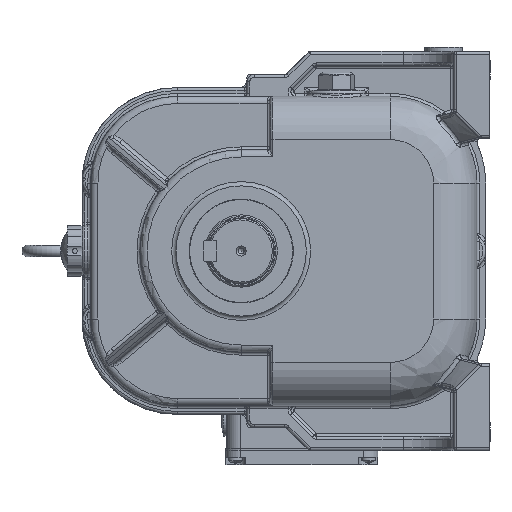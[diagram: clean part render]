
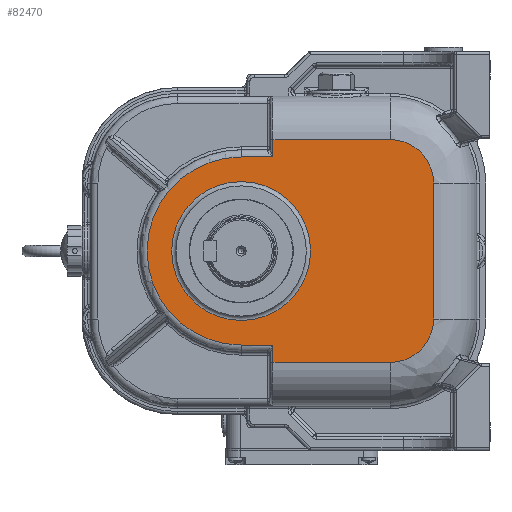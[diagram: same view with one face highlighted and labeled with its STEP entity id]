
A CAD part, left-side view. The second image highlights one B-rep face of the part: STEP entity #82470.
In plain terms, the highlighted planar face has unit normal (-1, 0, 0).
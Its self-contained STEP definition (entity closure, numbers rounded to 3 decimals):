
#4120=PLANE('',#88320);
#5724=FACE_BOUND('',#16428,.T.);
#7016=CIRCLE('',#87944,30.);
#7030=CIRCLE('',#87965,30.);
#7234=CIRCLE('',#88321,65.);
#7235=CIRCLE('',#88322,48.);
#11236=FACE_OUTER_BOUND('',#16427,.T.);
#16427=EDGE_LOOP('',(#60895,#60896,#60897,#60898,#60899,#60900,#60901,#60902,
#60903,#60904));
#16428=EDGE_LOOP('',(#60905));
#22189=LINE('',#128247,#28126);
#22253=LINE('',#129726,#28190);
#22254=LINE('',#129731,#28191);
#22255=LINE('',#129734,#28192);
#22256=LINE('',#129736,#28193);
#22257=LINE('',#129737,#28194);
#22258=LINE('',#129738,#28195);
#28126=VECTOR('',#100704,10.);
#28190=VECTOR('',#101106,10.);
#28191=VECTOR('',#101113,10.);
#28192=VECTOR('',#101116,10.);
#28193=VECTOR('',#101117,10.);
#28194=VECTOR('',#101118,10.);
#28195=VECTOR('',#101119,10.);
#35722=VERTEX_POINT('',#127078);
#35723=VERTEX_POINT('',#127080);
#35736=VERTEX_POINT('',#127322);
#35737=VERTEX_POINT('',#127324);
#35846=VERTEX_POINT('',#128245);
#35889=VERTEX_POINT('',#128632);
#35941=VERTEX_POINT('',#129311);
#35973=VERTEX_POINT('',#129730);
#35974=VERTEX_POINT('',#129732);
#35975=VERTEX_POINT('',#129735);
#35976=VERTEX_POINT('',#129739);
#44634=EDGE_CURVE('',#35722,#35723,#7016,.T.);
#44662=EDGE_CURVE('',#35736,#35737,#7030,.T.);
#44870=EDGE_CURVE('',#35846,#35722,#22189,.T.);
#45093=EDGE_CURVE('',#35941,#35846,#22253,.T.);
#45095=EDGE_CURVE('',#35941,#35973,#22254,.T.);
#45096=EDGE_CURVE('',#35974,#35973,#7234,.T.);
#45097=EDGE_CURVE('',#35974,#35889,#22255,.T.);
#45098=EDGE_CURVE('',#35975,#35889,#22256,.T.);
#45099=EDGE_CURVE('',#35737,#35975,#22257,.T.);
#45100=EDGE_CURVE('',#35723,#35736,#22258,.T.);
#45101=EDGE_CURVE('',#35976,#35976,#7235,.T.);
#60895=ORIENTED_EDGE('',*,*,#45093,.F.);
#60896=ORIENTED_EDGE('',*,*,#45095,.T.);
#60897=ORIENTED_EDGE('',*,*,#45096,.F.);
#60898=ORIENTED_EDGE('',*,*,#45097,.T.);
#60899=ORIENTED_EDGE('',*,*,#45098,.F.);
#60900=ORIENTED_EDGE('',*,*,#45099,.F.);
#60901=ORIENTED_EDGE('',*,*,#44662,.F.);
#60902=ORIENTED_EDGE('',*,*,#45100,.F.);
#60903=ORIENTED_EDGE('',*,*,#44634,.F.);
#60904=ORIENTED_EDGE('',*,*,#44870,.F.);
#60905=ORIENTED_EDGE('',*,*,#45101,.F.);
#82470=ADVANCED_FACE('',(#11236,#5724),#4120,.F.);
#87944=AXIS2_PLACEMENT_3D('',#127081,#100212,#100213);
#87965=AXIS2_PLACEMENT_3D('',#127325,#100259,#100260);
#88320=AXIS2_PLACEMENT_3D('',#129729,#101111,#101112);
#88321=AXIS2_PLACEMENT_3D('',#129733,#101114,#101115);
#88322=AXIS2_PLACEMENT_3D('',#129740,#101120,#101121);
#100212=DIRECTION('center_axis',(1.,0.,0.));
#100213=DIRECTION('ref_axis',(0.,-0.707,0.707));
#100259=DIRECTION('center_axis',(1.,0.,0.));
#100260=DIRECTION('ref_axis',(0.,-0.707,-0.707));
#100704=DIRECTION('',(0.,-1.,0.));
#101106=DIRECTION('',(0.,0.,1.));
#101111=DIRECTION('center_axis',(1.,0.,0.));
#101112=DIRECTION('ref_axis',(0.,0.,-1.));
#101113=DIRECTION('',(0.,1.,0.));
#101114=DIRECTION('center_axis',(1.,0.,0.));
#101115=DIRECTION('ref_axis',(0.,1.,0.));
#101116=DIRECTION('',(0.,-1.,0.));
#101117=DIRECTION('',(0.,0.,1.));
#101118=DIRECTION('',(0.,1.,0.));
#101119=DIRECTION('',(0.,0.,-1.));
#101120=DIRECTION('center_axis',(-1.,0.,0.));
#101121=DIRECTION('ref_axis',(0.,0.,-1.));
#127078=CARTESIAN_POINT('',(-126.,-103.,77.));
#127080=CARTESIAN_POINT('',(-126.,-133.,47.));
#127081=CARTESIAN_POINT('Origin',(-126.,-103.,47.));
#127322=CARTESIAN_POINT('',(-126.,-133.,-47.));
#127324=CARTESIAN_POINT('',(-126.,-103.,-77.));
#127325=CARTESIAN_POINT('Origin',(-126.,-103.,-47.));
#128245=CARTESIAN_POINT('',(-126.,-22.,77.));
#128247=CARTESIAN_POINT('',(-126.,-80.915,77.));
#128632=CARTESIAN_POINT('',(-126.,-22.,-65.));
#129311=CARTESIAN_POINT('',(-126.,-22.,65.));
#129726=CARTESIAN_POINT('',(-126.,-22.,53.5));
#129729=CARTESIAN_POINT('Origin',(-126.,-58.83,0.));
#129730=CARTESIAN_POINT('',(-126.,0.,65.));
#129731=CARTESIAN_POINT('',(-126.,-39.415,65.));
#129732=CARTESIAN_POINT('',(-126.,0.,-65.));
#129733=CARTESIAN_POINT('Origin',(-126.,0.,0.));
#129734=CARTESIAN_POINT('',(-126.,-29.415,-65.));
#129735=CARTESIAN_POINT('',(-126.,-22.,-77.));
#129736=CARTESIAN_POINT('',(-126.,-22.,-35.));
#129737=CARTESIAN_POINT('',(-126.,-7.415,-77.));
#129738=CARTESIAN_POINT('',(-126.,-133.,-23.5));
#129739=CARTESIAN_POINT('',(-126.,0.,48.));
#129740=CARTESIAN_POINT('Origin',(-126.,0.,0.));
